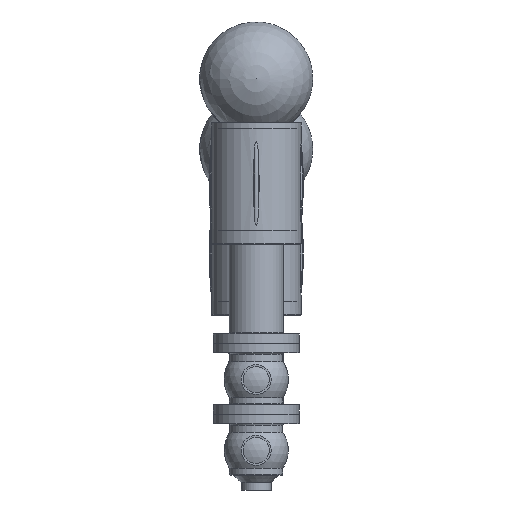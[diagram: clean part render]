
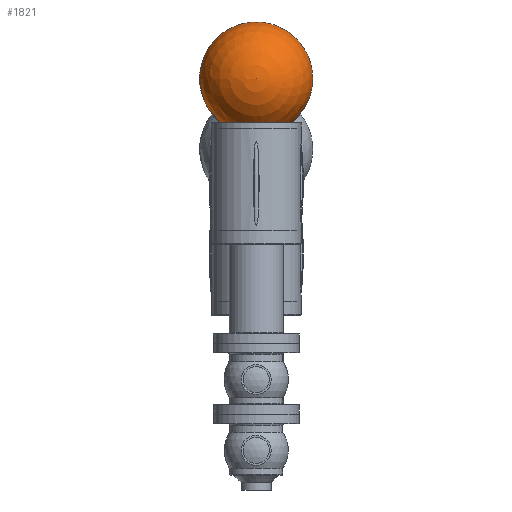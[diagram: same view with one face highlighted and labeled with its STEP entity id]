
A CAD part, front view. The second image highlights one B-rep face of the part: STEP entity #1821.
In plain terms, the highlighted spherical face has radius 72.5 mm.
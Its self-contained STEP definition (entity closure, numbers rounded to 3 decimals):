
#216=SPHERICAL_SURFACE('',#2198,72.5);
#239=FACE_BOUND('',#482,.T.);
#356=FACE_OUTER_BOUND('',#481,.T.);
#481=EDGE_LOOP('',(#1565,#1566));
#482=EDGE_LOOP('',(#1567));
#725=CIRCLE('',#2199,72.5);
#726=CIRCLE('',#2200,46.648);
#914=VERTEX_POINT('',#3673);
#915=VERTEX_POINT('',#3674);
#916=VERTEX_POINT('',#3676);
#1143=EDGE_CURVE('',#914,#915,#725,.T.);
#1144=EDGE_CURVE('',#916,#916,#726,.T.);
#1565=ORIENTED_EDGE('',*,*,#1143,.T.);
#1566=ORIENTED_EDGE('',*,*,#1143,.F.);
#1567=ORIENTED_EDGE('',*,*,#1144,.F.);
#1821=ADVANCED_FACE('',(#356,#239),#216,.T.);
#2198=AXIS2_PLACEMENT_3D('',#3672,#2737,#2738);
#2199=AXIS2_PLACEMENT_3D('',#3675,#2739,#2740);
#2200=AXIS2_PLACEMENT_3D('',#3677,#2741,#2742);
#2737=DIRECTION('center_axis',(0.,0.,1.));
#2738=DIRECTION('ref_axis',(1.,0.,0.));
#2739=DIRECTION('center_axis',(0.,-1.,0.));
#2740=DIRECTION('ref_axis',(-1.,0.,0.));
#2741=DIRECTION('center_axis',(0.,-1.,0.));
#2742=DIRECTION('ref_axis',(1.,0.,0.));
#3672=CARTESIAN_POINT('Origin',(150.,266.5,0.));
#3673=CARTESIAN_POINT('',(150.,266.5,72.5));
#3674=CARTESIAN_POINT('',(150.,266.5,-72.5));
#3675=CARTESIAN_POINT('Origin',(150.,266.5,0.));
#3676=CARTESIAN_POINT('',(196.648,211.,0.));
#3677=CARTESIAN_POINT('Origin',(150.,211.,0.));
